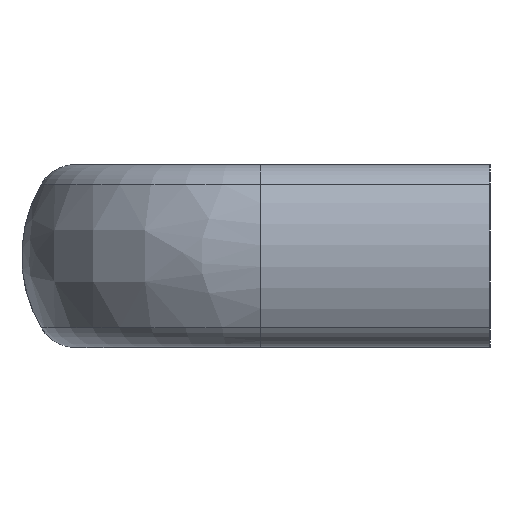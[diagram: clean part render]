
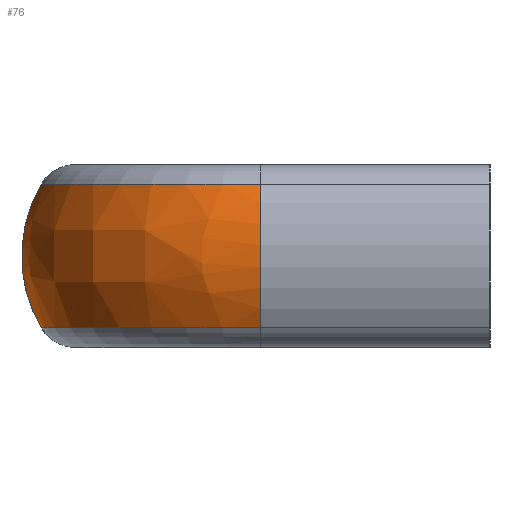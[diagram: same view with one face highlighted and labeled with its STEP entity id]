
A CAD part, left-side view. The second image highlights one B-rep face of the part: STEP entity #76.
In plain terms, the highlighted free-form (B-spline) face has degree [3, 3] with [4, 4] control points.
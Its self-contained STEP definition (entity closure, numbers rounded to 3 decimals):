
#76 = ADVANCED_FACE( '', ( #131 ), #132, .T. );
#131 = FACE_OUTER_BOUND( '', #243, .T. );
#132 = ( BOUNDED_SURFACE(  )B_SPLINE_SURFACE( 3, 3, ( ( #246, #247, #248, #249 ), ( #250, #251, #252, #253 ), ( #254, #255, #256, #257 ), ( #258, #259, #260, #261 ) ), .UNSPECIFIED., .F., .F., .F. )B_SPLINE_SURFACE_WITH_KNOTS( ( 4, 4 ), ( 4, 4 ), ( 1.571, 3.142 ), ( -0.533, 0.533 ), .UNSPECIFIED. )GEOMETRIC_REPRESENTATION_ITEM(  )RATIONAL_B_SPLINE_SURFACE( ( ( 1., 0.805, 0.805, 1. ), ( 0.907, 0.73, 0.73, 0.907 ), ( 0.907, 0.73, 0.73, 0.907 ), ( 1., 0.805, 0.805, 1. ) ) )REPRESENTATION_ITEM( '' )SURFACE(  ) );
#243 = EDGE_LOOP( '', ( #404, #405, #406, #407 ) );
#246 = CARTESIAN_POINT( '', ( -70.5, 48.852, 7.826 ) );
#247 = CARTESIAN_POINT( '', ( -84.472, 48.852, 7.826 ) );
#248 = CARTESIAN_POINT( '', ( -94.352, 38.972, 7.826 ) );
#249 = CARTESIAN_POINT( '', ( -94.352, 25., 7.826 ) );
#250 = CARTESIAN_POINT( '', ( -70.5, 51.775, 2.875 ) );
#251 = CARTESIAN_POINT( '', ( -86.185, 51.775, 2.875 ) );
#252 = CARTESIAN_POINT( '', ( -97.275, 40.685, 2.875 ) );
#253 = CARTESIAN_POINT( '', ( -97.275, 25., 2.875 ) );
#254 = CARTESIAN_POINT( '', ( -70.5, 51.775, -2.875 ) );
#255 = CARTESIAN_POINT( '', ( -86.185, 51.775, -2.875 ) );
#256 = CARTESIAN_POINT( '', ( -97.275, 40.685, -2.875 ) );
#257 = CARTESIAN_POINT( '', ( -97.275, 25., -2.875 ) );
#258 = CARTESIAN_POINT( '', ( -70.5, 48.852, -7.826 ) );
#259 = CARTESIAN_POINT( '', ( -84.472, 48.852, -7.826 ) );
#260 = CARTESIAN_POINT( '', ( -94.352, 38.972, -7.826 ) );
#261 = CARTESIAN_POINT( '', ( -94.352, 25., -7.826 ) );
#404 = ORIENTED_EDGE( '', *, *, #799, .T. );
#405 = ORIENTED_EDGE( '', *, *, #800, .F. );
#406 = ORIENTED_EDGE( '', *, *, #801, .F. );
#407 = ORIENTED_EDGE( '', *, *, #802, .T. );
#799 = EDGE_CURVE( '', #921, #925, #927, .T. );
#800 = EDGE_CURVE( '', #928, #925, #929, .T. );
#801 = EDGE_CURVE( '', #930, #928, #931, .T. );
#802 = EDGE_CURVE( '', #930, #921, #932, .T. );
#921 = VERTEX_POINT( '', #1118 );
#925 = VERTEX_POINT( '', #1127 );
#927 = CIRCLE( '', #1129, 23.852 );
#928 = VERTEX_POINT( '', #1130 );
#929 = CIRCLE( '', #1131, 15.391 );
#930 = VERTEX_POINT( '', #1132 );
#931 = CIRCLE( '', #1133, 23.852 );
#932 = B_SPLINE_CURVE_WITH_KNOTS( '', 3, ( #1134, #1135, #1136, #1137, #1138, #1139, #1140, #1141, #1142, #1143 ), .UNSPECIFIED., .F., .F., ( 4, 2, 2, 2, 4 ), ( 0., 0.25, 0.5, 0.75, 1. ), .UNSPECIFIED. );
#1118 = CARTESIAN_POINT( '', ( -70.5, 48.852, -7.833 ) );
#1127 = CARTESIAN_POINT( '', ( -94.352, 25., -7.826 ) );
#1129 = AXIS2_PLACEMENT_3D( '', #1398, #1399, #1400 );
#1130 = CARTESIAN_POINT( '', ( -94.352, 25., 7.826 ) );
#1131 = AXIS2_PLACEMENT_3D( '', #1401, #1402, #1403 );
#1132 = CARTESIAN_POINT( '', ( -70.5, 48.851, 7.834 ) );
#1133 = AXIS2_PLACEMENT_3D( '', #1404, #1405, #1406 );
#1134 = CARTESIAN_POINT( '', ( -70.5, 48.852, 7.826 ) );
#1135 = CARTESIAN_POINT( '', ( -70.5, 49.548, 6.648 ) );
#1136 = CARTESIAN_POINT( '', ( -70.5, 50.085, 5.376 ) );
#1137 = CARTESIAN_POINT( '', ( -70.5, 50.806, 2.736 ) );
#1138 = CARTESIAN_POINT( '', ( -70.5, 50.99, 1.368 ) );
#1139 = CARTESIAN_POINT( '', ( -70.5, 50.99, -1.368 ) );
#1140 = CARTESIAN_POINT( '', ( -70.5, 50.806, -2.736 ) );
#1141 = CARTESIAN_POINT( '', ( -70.5, 50.085, -5.376 ) );
#1142 = CARTESIAN_POINT( '', ( -70.5, 49.548, -6.648 ) );
#1143 = CARTESIAN_POINT( '', ( -70.5, 48.852, -7.826 ) );
#1398 = CARTESIAN_POINT( '', ( -70.5, 25., -7.826 ) );
#1399 = DIRECTION( '', ( 0., 0., 1. ) );
#1400 = DIRECTION( '', ( 1., 0., 0. ) );
#1401 = CARTESIAN_POINT( '', ( -81.099, 25., 0. ) );
#1402 = DIRECTION( '', ( 0., -1., 0. ) );
#1403 = DIRECTION( '', ( 0., 0., 1. ) );
#1404 = CARTESIAN_POINT( '', ( -70.5, 25., 7.826 ) );
#1405 = DIRECTION( '', ( 0., 0., 1. ) );
#1406 = DIRECTION( '', ( 1., 0., 0. ) );
